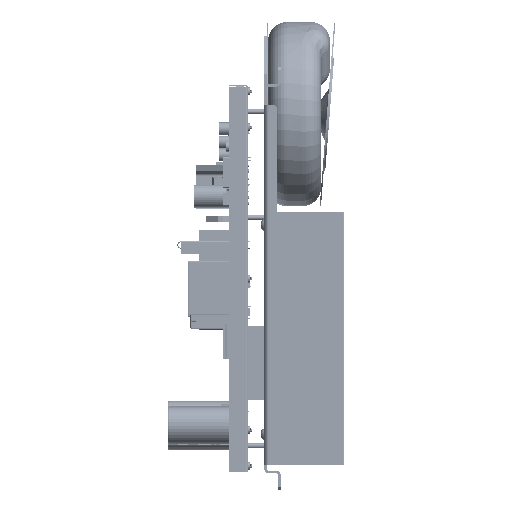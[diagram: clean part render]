
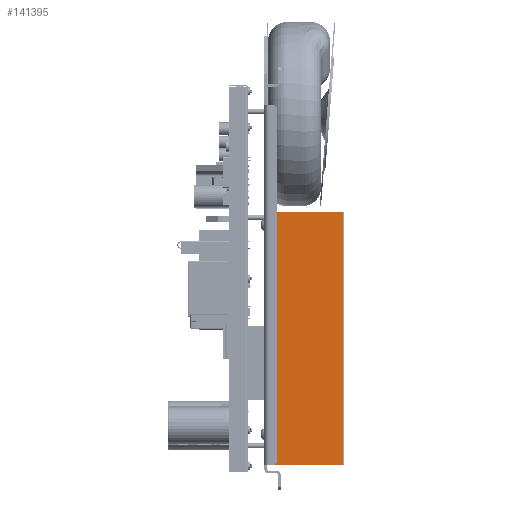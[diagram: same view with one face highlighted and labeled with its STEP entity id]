
A CAD part, left-side view. The second image highlights one B-rep face of the part: STEP entity #141395.
In plain terms, the highlighted planar face has unit normal (-1, 0, 0).
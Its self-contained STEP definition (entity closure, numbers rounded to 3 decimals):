
#27970 = CARTESIAN_POINT ( 'NONE',  ( 0., 0., 200. ) ) ;
#29513 = CARTESIAN_POINT ( 'NONE',  ( 0., 0., 200. ) ) ;
#30439 = CARTESIAN_POINT ( 'NONE',  ( 0., 0.75, 200. ) ) ;
#73252 = FACE_OUTER_BOUND ( 'NONE', #303856, .T. ) ;
#73395 = CARTESIAN_POINT ( 'NONE',  ( 0., 61., 200. ) ) ;
#80239 = VECTOR ( 'NONE', #236386, 1000. ) ;
#93791 = LINE ( 'NONE', #29513, #360878 ) ;
#103113 = ORIENTED_EDGE ( 'NONE', *, *, #460475, .T. ) ;
#105682 = DIRECTION ( 'NONE',  ( 0., -1., 0. ) ) ;
#119951 = VECTOR ( 'NONE', #120817, 1000. ) ;
#120210 = EDGE_CURVE ( 'NONE', #463382, #420537, #93791, .T. ) ;
#120817 = DIRECTION ( 'NONE',  ( 0., 0., 1. ) ) ;
#141395 = ADVANCED_FACE ( 'NONE', ( #73252 ), #273801, .F. ) ;
#195869 = LINE ( 'NONE', #201081, #119951 ) ;
#201081 = CARTESIAN_POINT ( 'NONE',  ( 0., 0.75, 200. ) ) ;
#207854 = AXIS2_PLACEMENT_3D ( 'NONE', #27970, #436648, #482019 ) ;
#236386 = DIRECTION ( 'NONE',  ( 0., 0., 1. ) ) ;
#249594 = CARTESIAN_POINT ( 'NONE',  ( 0., 61., 200. ) ) ;
#259420 = ORIENTED_EDGE ( 'NONE', *, *, #394422, .T. ) ;
#273801 = PLANE ( 'NONE',  #207854 ) ;
#279165 = LINE ( 'NONE', #73395, #80239 ) ;
#303856 = EDGE_LOOP ( 'NONE', ( #442884, #259420, #103113, #375806 ) ) ;
#308864 = LINE ( 'NONE', #503940, #327966 ) ;
#327966 = VECTOR ( 'NONE', #105682, 1000. ) ;
#344824 = VERTEX_POINT ( 'NONE', #449375 ) ;
#347581 = DIRECTION ( 'NONE',  ( 0., -1., 0. ) ) ;
#360878 = VECTOR ( 'NONE', #347581, 1000. ) ;
#375806 = ORIENTED_EDGE ( 'NONE', *, *, #120210, .F. ) ;
#394422 = EDGE_CURVE ( 'NONE', #417923, #344824, #308864, .T. ) ;
#417923 = VERTEX_POINT ( 'NONE', #465854 ) ;
#420537 = VERTEX_POINT ( 'NONE', #30439 ) ;
#436648 = DIRECTION ( 'NONE',  ( 1., 0., 0. ) ) ;
#442884 = ORIENTED_EDGE ( 'NONE', *, *, #463295, .F. ) ;
#449375 = CARTESIAN_POINT ( 'NONE',  ( 0., 0.75, 0. ) ) ;
#460475 = EDGE_CURVE ( 'NONE', #344824, #420537, #195869, .T. ) ;
#463295 = EDGE_CURVE ( 'NONE', #417923, #463382, #279165, .T. ) ;
#463382 = VERTEX_POINT ( 'NONE', #249594 ) ;
#465854 = CARTESIAN_POINT ( 'NONE',  ( 0., 61., 0. ) ) ;
#482019 = DIRECTION ( 'NONE',  ( 0., 0., -1. ) ) ;
#503940 = CARTESIAN_POINT ( 'NONE',  ( 0., 0., 0. ) ) ;
